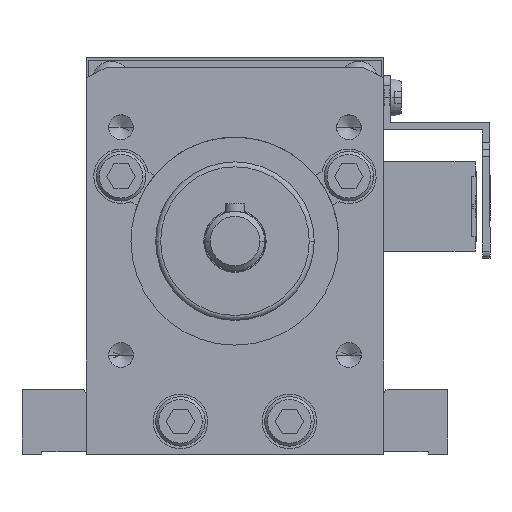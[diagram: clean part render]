
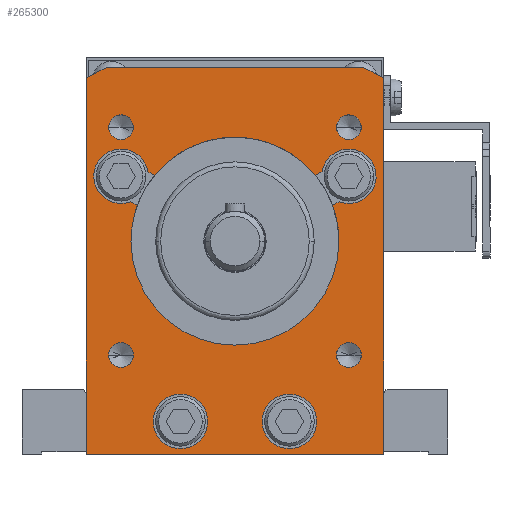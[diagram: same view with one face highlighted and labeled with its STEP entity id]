
A CAD part, front view. The second image highlights one B-rep face of the part: STEP entity #265300.
In plain terms, the highlighted planar face has unit normal (0, -1, 0) as drawn and (0, 0, 1) by its records, which use the part's own axes.
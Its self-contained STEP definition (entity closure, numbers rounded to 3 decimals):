
#218810=CARTESIAN_POINT('',(60.,0.,540.));
#218820=VERTEX_POINT('',#218810);
#218850=CARTESIAN_POINT('',(60.,0.,540.));
#218860=DIRECTION('',(0.,-1.,0.));
#218870=VECTOR('',#218860,1.);
#218880=LINE('',#218850,#218870);
#218890=CARTESIAN_POINT('',(60.,76.,540.));
#218900=VERTEX_POINT('',#218890);
#218910=EDGE_CURVE('',#218900,#218820,#218880,.T.);
#228140=CARTESIAN_POINT('',(0.,76.,540.)
);
#228150=VERTEX_POINT('',#228140);
#228180=CARTESIAN_POINT('',(0.,0.,540.));
#228190=DIRECTION('',(0.,1.,0.));
#228200=VECTOR('',#228190,1.);
#228210=LINE('',#228180,#228200);
#228220=CARTESIAN_POINT('',(0.,0.,540.));
#228230=VERTEX_POINT('',#228220);
#228240=EDGE_CURVE('',#228230,#228150,#228210,.T.);
#249090=CARTESIAN_POINT('',(0.,106.,540.));
#249100=DIRECTION('',(-0.894,0.447,0.));
#249110=VECTOR('',#249100,1.);
#249120=LINE('',#249090,#249110);
#249130=CARTESIAN_POINT('',(56.,78.,540.));
#249140=VERTEX_POINT('',#249130);
#249150=EDGE_CURVE('',#218900,#249140,#249120,.T.);
#249510=CARTESIAN_POINT('',(0.,78.,540.));
#249520=DIRECTION('',(1.,0.,0.));
#249530=VECTOR('',#249520,1.);
#249540=LINE('',#249510,#249530);
#249550=CARTESIAN_POINT('',(4.,78.,540.));
#249560=VERTEX_POINT('',#249550);
#249570=EDGE_CURVE('',#249560,#249140,#249540,.T.);
#249780=CARTESIAN_POINT('',(0.,76.,540.));
#249790=DIRECTION('',(-0.894,-0.447,0.));
#249800=VECTOR('',#249790,1.);
#249810=LINE('',#249780,#249800);
#249820=EDGE_CURVE('',#249560,#228150,#249810,.T.);
#252800=CARTESIAN_POINT('',(9.,43.,540.));
#252810=VERTEX_POINT('',#252800);
#252840=CARTESIAN_POINT('',(30.,43.,540.));
#252850=DIRECTION('',(0.,0.,1.));
#252860=DIRECTION('',(1.,0.,0.));
#252870=AXIS2_PLACEMENT_3D('',#252840,#252850,#252860);
#252880=CIRCLE('',#252870,21.);
#252890=CARTESIAN_POINT('',(10.275,50.207,540.));
#252900=VERTEX_POINT('',#252890);
#252910=EDGE_CURVE('',#252900,#252810,#252880,.T.);
#253220=CARTESIAN_POINT('',(13.74,56.289,540.));
#253230=VERTEX_POINT('',#253220);
#253260=CARTESIAN_POINT('',(46.26,56.289,540.));
#253270=VERTEX_POINT('',#253260);
#253280=EDGE_CURVE('',#253270,#253230,#252880,.T.);
#253590=CARTESIAN_POINT('',(49.725,50.207,540.));
#253600=VERTEX_POINT('',#253590);
#253630=CARTESIAN_POINT('',(51.,43.,540.));
#253640=VERTEX_POINT('',#253630);
#253650=EDGE_CURVE('',#253640,#253600,#252880,.T.);
#255050=CARTESIAN_POINT('',(50.5,66.,540.));
#255060=VERTEX_POINT('',#255050);
#255140=CARTESIAN_POINT('',(55.5,66.,540.));
#255150=VERTEX_POINT('',#255140);
#255180=CARTESIAN_POINT('',(53.,66.,540.));
#255190=DIRECTION('',(0.,0.,1.));
#255200=DIRECTION('',(1.,0.,0.));
#255210=AXIS2_PLACEMENT_3D('',#255180,#255190,#255200);
#255220=CIRCLE('',#255210,2.5);
#255230=EDGE_CURVE('',#255060,#255150,#255220,.T.);
#258400=CARTESIAN_POINT('',(4.5,20.,540.));
#258410=VERTEX_POINT('',#258400);
#258490=CARTESIAN_POINT('',(9.5,20.,540.));
#258500=VERTEX_POINT('',#258490);
#258530=CARTESIAN_POINT('',(7.,20.,540.));
#258540=DIRECTION('',(0.,0.,1.));
#258550=DIRECTION('',(1.,0.,0.));
#258560=AXIS2_PLACEMENT_3D('',#258530,#258540,#258550);
#258570=CIRCLE('',#258560,2.5);
#258580=EDGE_CURVE('',#258410,#258500,#258570,.T.);
#258790=CARTESIAN_POINT('',(50.5,20.,540.));
#258800=VERTEX_POINT('',#258790);
#258880=CARTESIAN_POINT('',(55.5,20.,540.));
#258890=VERTEX_POINT('',#258880);
#258920=CARTESIAN_POINT('',(53.,20.,540.));
#258930=DIRECTION('',(0.,0.,1.));
#258940=DIRECTION('',(1.,0.,0.));
#258950=AXIS2_PLACEMENT_3D('',#258920,#258930,#258940);
#258960=CIRCLE('',#258950,2.5);
#258970=EDGE_CURVE('',#258800,#258890,#258960,.T.);
#262100=CARTESIAN_POINT('',(4.5,66.,540.));
#262110=VERTEX_POINT('',#262100);
#262190=CARTESIAN_POINT('',(9.5,66.,540.));
#262200=VERTEX_POINT('',#262190);
#262230=CARTESIAN_POINT('',(7.,66.,540.));
#262240=DIRECTION('',(0.,0.,1.));
#262250=DIRECTION('',(1.,0.,0.));
#262260=AXIS2_PLACEMENT_3D('',#262230,#262240,#262250);
#262270=CIRCLE('',#262260,2.5);
#262280=EDGE_CURVE('',#262110,#262200,#262270,.T.);
#264090=CARTESIAN_POINT('',(56.881,26.944,540.));
#264100=DIRECTION('',(0.,0.,1.));
#264110=DIRECTION('',(1.,0.,0.));
#264120=AXIS2_PLACEMENT_3D('',#264090,#264100,#264110);
#264130=PLANE('',#264120);
#264140=CARTESIAN_POINT('',(41.,6.6,540.));
#264150=DIRECTION('',(0.,0.,1.));
#264160=DIRECTION('',(1.,0.,0.));
#264170=AXIS2_PLACEMENT_3D('',#264140,#264150,#264160);
#264180=CIRCLE('',#264170,5.5);
#264190=CARTESIAN_POINT('',(46.5,6.6,540.));
#264200=VERTEX_POINT('',#264190);
#264210=CARTESIAN_POINT('',(35.5,6.6,540.));
#264220=VERTEX_POINT('',#264210);
#264230=EDGE_CURVE('',#264200,#264220,#264180,.T.);
#264240=ORIENTED_EDGE('',*,*,#264230,.F.);
#264250=EDGE_CURVE('',#264220,#264200,#264180,.T.);
#264260=ORIENTED_EDGE('',*,*,#264250,.F.);
#264270=EDGE_LOOP('',(#264260,#264240));
#264280=FACE_BOUND('',#264270,.T.);
#264290=CARTESIAN_POINT('',(19.,6.6,540.));
#264300=DIRECTION('',(0.,0.,1.));
#264310=DIRECTION('',(1.,0.,0.));
#264320=AXIS2_PLACEMENT_3D('',#264290,#264300,#264310);
#264330=CIRCLE('',#264320,5.5);
#264340=CARTESIAN_POINT('',(24.5,6.6,540.));
#264350=VERTEX_POINT('',#264340);
#264360=CARTESIAN_POINT('',(13.5,6.6,540.));
#264370=VERTEX_POINT('',#264360);
#264380=EDGE_CURVE('',#264350,#264370,#264330,.T.);
#264390=ORIENTED_EDGE('',*,*,#264380,.F.);
#264400=EDGE_CURVE('',#264370,#264350,#264330,.T.);
#264410=ORIENTED_EDGE('',*,*,#264400,.F.);
#264420=EDGE_LOOP('',(#264410,#264390));
#264430=FACE_BOUND('',#264420,.T.);
#264440=EDGE_CURVE('',#258890,#258800,#258960,.T.);
#264450=ORIENTED_EDGE('',*,*,#264440,.F.);
#264460=ORIENTED_EDGE('',*,*,#258970,.F.);
#264470=EDGE_LOOP('',(#264460,#264450));
#264480=FACE_BOUND('',#264470,.T.);
#264490=EDGE_CURVE('',#258500,#258410,#258570,.T.);
#264500=ORIENTED_EDGE('',*,*,#264490,.F.);
#264510=ORIENTED_EDGE('',*,*,#258580,.F.);
#264520=EDGE_LOOP('',(#264510,#264500));
#264530=FACE_BOUND('',#264520,.T.);
#264540=ORIENTED_EDGE('',*,*,#252910,.F.);
#264550=EDGE_CURVE('',#252810,#253640,#252880,.T.);
#264560=ORIENTED_EDGE('',*,*,#264550,.F.);
#264570=ORIENTED_EDGE('',*,*,#253650,.F.);
#264580=CARTESIAN_POINT('',(0.,21.885,540.));
#264590=DIRECTION('',(0.869,0.495,0.));
#264600=VECTOR('',#264590,1.);
#264610=LINE('',#264580,#264600);
#264620=CARTESIAN_POINT('',(51.046,50.959,540.));
#264630=VERTEX_POINT('',#264620);
#264640=EDGE_CURVE('',#253600,#264630,#264610,.T.);
#264650=ORIENTED_EDGE('',*,*,#264640,.F.);
#264660=CARTESIAN_POINT('',(53.,56.1,540.));
#264670=DIRECTION('',(0.,0.,1.));
#264680=DIRECTION('',(1.,0.,0.));
#264690=AXIS2_PLACEMENT_3D('',#264660,#264670,#264680);
#264700=CIRCLE('',#264690,5.5);
#264710=CARTESIAN_POINT('',(47.581,57.042,540.));
#264720=VERTEX_POINT('',#264710);
#264730=EDGE_CURVE('',#264630,#264720,#264700,.T.);
#264740=ORIENTED_EDGE('',*,*,#264730,.F.);
#264750=CARTESIAN_POINT('',(0.,29.941,540.));
#264760=DIRECTION('',(-0.869,-0.495,0.));
#264770=VECTOR('',#264760,1.);
#264780=LINE('',#264750,#264770);
#264790=EDGE_CURVE('',#264720,#253270,#264780,.T.);
#264800=ORIENTED_EDGE('',*,*,#264790,.F.);
#264810=ORIENTED_EDGE('',*,*,#253280,.F.);
#264820=CARTESIAN_POINT('',(0.,64.115,540.));
#264830=DIRECTION('',(-0.869,0.495,0.));
#264840=VECTOR('',#264830,1.);
#264850=LINE('',#264820,#264840);
#264860=CARTESIAN_POINT('',(12.419,57.042,540.));
#264870=VERTEX_POINT('',#264860);
#264880=EDGE_CURVE('',#253230,#264870,#264850,.T.);
#264890=ORIENTED_EDGE('',*,*,#264880,.F.);
#264900=CARTESIAN_POINT('',(7.,56.1,540.));
#264910=DIRECTION('',(0.,0.,1.));
#264920=DIRECTION('',(1.,0.,0.));
#264930=AXIS2_PLACEMENT_3D('',#264900,#264910,#264920);
#264940=CIRCLE('',#264930,5.5);
#264950=CARTESIAN_POINT('',(8.954,50.959,540.));
#264960=VERTEX_POINT('',#264950);
#264970=EDGE_CURVE('',#264870,#264960,#264940,.T.);
#264980=ORIENTED_EDGE('',*,*,#264970,.F.);
#264990=CARTESIAN_POINT('',(0.,56.059,540.));
#265000=DIRECTION('',(0.869,-0.495,0.));
#265010=VECTOR('',#265000,1.);
#265020=LINE('',#264990,#265010);
#265030=EDGE_CURVE('',#264960,#252900,#265020,.T.);
#265040=ORIENTED_EDGE('',*,*,#265030,.F.);
#265050=EDGE_LOOP('',(#265040,#264980,#264890,#264810,#264800,#264740,
#264650,#264570,#264560,#264540));
#265060=FACE_BOUND('',#265050,.T.);
#265070=EDGE_CURVE('',#262200,#262110,#262270,.T.);
#265080=ORIENTED_EDGE('',*,*,#265070,.F.);
#265090=ORIENTED_EDGE('',*,*,#262280,.F.);
#265100=EDGE_LOOP('',(#265090,#265080));
#265110=FACE_BOUND('',#265100,.T.);
#265120=EDGE_CURVE('',#255150,#255060,#255220,.T.);
#265130=ORIENTED_EDGE('',*,*,#265120,.F.);
#265140=ORIENTED_EDGE('',*,*,#255230,.F.);
#265150=EDGE_LOOP('',(#265140,#265130));
#265160=FACE_BOUND('',#265150,.T.);
#265170=ORIENTED_EDGE('',*,*,#228240,.F.);
#265180=ORIENTED_EDGE('',*,*,#249820,.T.);
#265190=ORIENTED_EDGE('',*,*,#249570,.F.);
#265200=ORIENTED_EDGE('',*,*,#249150,.T.);
#265210=ORIENTED_EDGE('',*,*,#218910,.F.);
#265220=CARTESIAN_POINT('',(0.,0.,540.));
#265230=DIRECTION('',(-1.,0.,0.));
#265240=VECTOR('',#265230,1.);
#265250=LINE('',#265220,#265240);
#265260=EDGE_CURVE('',#218820,#228230,#265250,.T.);
#265270=ORIENTED_EDGE('',*,*,#265260,.F.);
#265280=EDGE_LOOP('',(#265270,#265210,#265200,#265190,#265180,#265170));
#265290=FACE_OUTER_BOUND('',#265280,.T.);
#265300=ADVANCED_FACE('',(#264280,#264430,#264480,#264530,#265060,
#265110,#265160,#265290),#264130,.T.);
